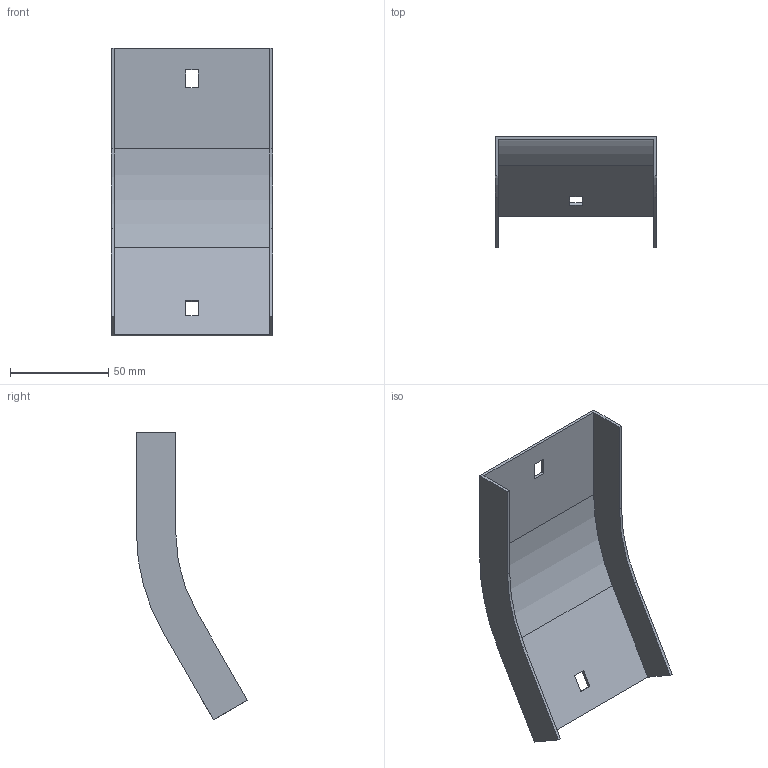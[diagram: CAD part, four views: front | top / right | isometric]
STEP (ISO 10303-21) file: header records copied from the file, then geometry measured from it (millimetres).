
FILE_DESCRIPTION (( 'STEP AP214' ), '1' );
FILE_NAME ('35G1C075.step', '2025-02-21T12:41:43', ( '' ), ( '' ), 'SwSTEP 2.0', 'SolidWorks 2023', '' );
FILE_SCHEMA (( 'AUTOMOTIVE_DESIGN' ));
Length unit declared in the file: millimetre
Products named in the file (1): 35G1C075
Bounding box: 82 x 56.52 x 146.29 mm (x, y, z)
Volume: 27228.6 mm3; surface area: 37191.2 mm2
Topology: 1 solids, 1 shells, 26 faces, 72 edges, 48 vertices
Faces by surface type: plane 22, cylinder 4
Entity records: 855 total; most frequent: CARTESIAN_POINT 147, ORIENTED_EDGE 144, DIRECTION 134, EDGE_CURVE 72, VECTOR 64, LINE 64, VERTEX_POINT 48, AXIS2_PLACEMENT_3D 35
